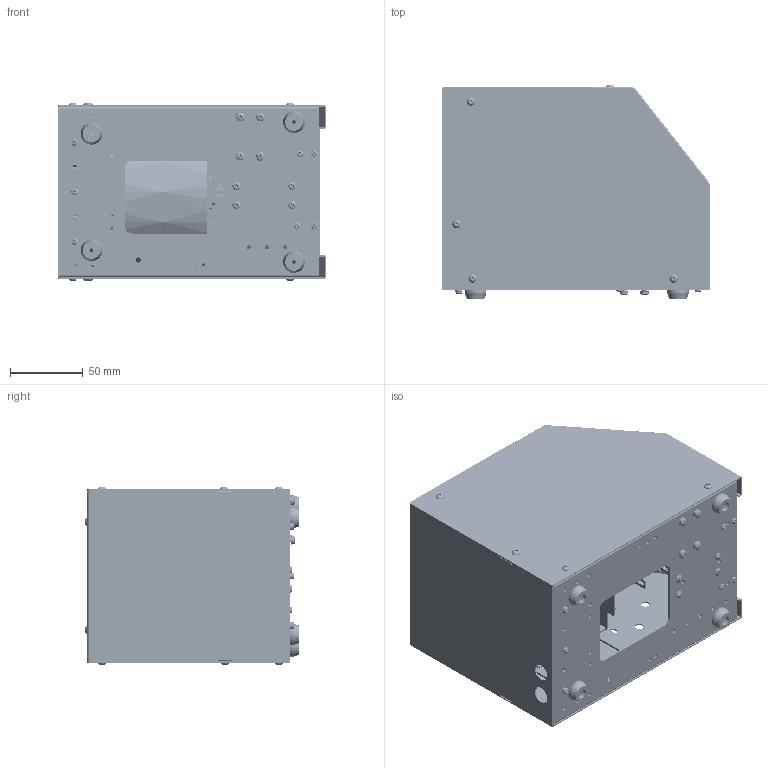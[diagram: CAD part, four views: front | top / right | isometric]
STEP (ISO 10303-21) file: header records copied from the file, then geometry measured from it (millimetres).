
FILE_DESCRIPTION (( 'STEP AP214' ), '1' );
FILE_NAME ('NFK Nxx-RS.STEP', '2017-06-14T07:31:24', ( '' ), ( '' ), 'SwSTEP 2.0', 'SolidWorks 2017', '' );
FILE_SCHEMA (( 'AUTOMOTIVE_DESIGN' ));
Length unit declared in the file: millimetre
Products named in the file (1): NFK Nxx-RS
Bounding box: 184 x 147.05 x 122.3 mm (x, y, z)
Volume: 433201.7 mm3; surface area: 613138.6 mm2
Topology: 161 solids, 161 shells, 6450 faces, 16332 edges, 10407 vertices
Faces by surface type: plane 2801, cylinder 2295, bspline 728, cone 496, torus 100, sphere 30
Entity records: 319156 total; most frequent: CARTESIAN_POINT 92945, ORIENTED_EDGE 32424, DIRECTION 31635, EDGE_CURVE 16212, AXIS2_PLACEMENT_3D 11881, VERTEX_POINT 10407, LINE 7873, VECTOR 7873
